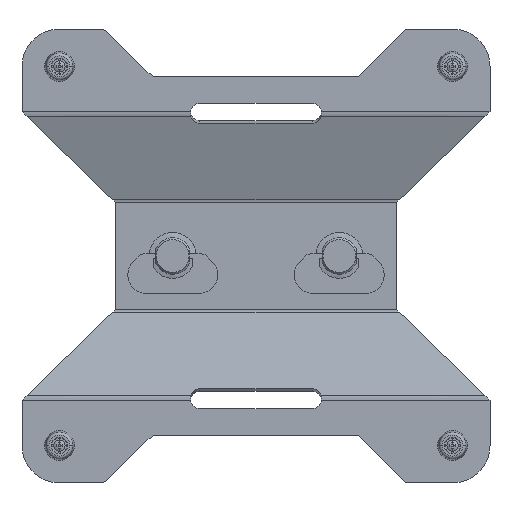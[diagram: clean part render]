
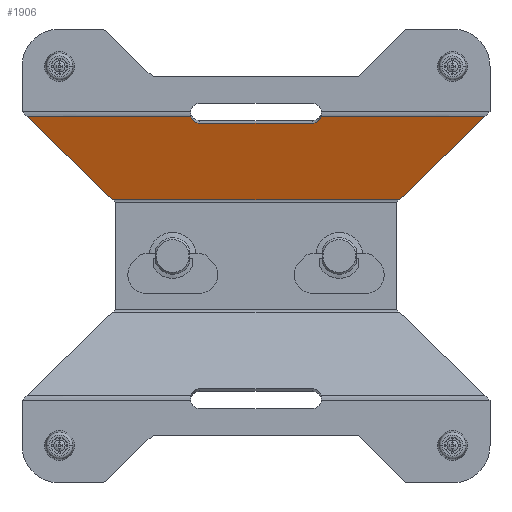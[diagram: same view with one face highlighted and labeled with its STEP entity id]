
A CAD part, front view. The second image highlights one B-rep face of the part: STEP entity #1906.
In plain terms, the highlighted planar face has unit normal (0, -0.94, -0.342).
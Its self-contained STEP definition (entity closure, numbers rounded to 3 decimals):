
#181=DIRECTION('',(-1.,0.,0.));
#182=VECTOR('',#181,152.824);
#183=CARTESIAN_POINT('',(76.412,-0.241,29.957));
#184=LINE('',#183,#182);
#321=CARTESIAN_POINT('',(-30.,-16.853,75.598));
#322=DIRECTION('',(0.,0.94,0.342));
#323=DIRECTION('',(0.,0.342,-0.94));
#324=AXIS2_PLACEMENT_3D('',#321,#322,#323);
#326=DIRECTION('',(1.,0.,0.));
#327=VECTOR('',#326,60.);
#328=CARTESIAN_POINT('',(-30.,-15.143,70.9));
#329=LINE('',#328,#327);
#330=CARTESIAN_POINT('',(30.,-16.853,75.598));
#331=DIRECTION('',(0.,0.94,0.342));
#332=DIRECTION('',(0.961,0.095,-0.261));
#333=AXIS2_PLACEMENT_3D('',#330,#331,#332);
#335=DIRECTION('',(0.696,-0.245,0.675));
#336=VECTOR('',#335,65.728);
#337=CARTESIAN_POINT('',(76.412,-0.241,29.957));
#338=LINE('',#337,#336);
#339=DIRECTION('',(-0.696,-0.245,0.675));
#340=VECTOR('',#339,65.728);
#341=CARTESIAN_POINT('',(-76.412,-0.241,
29.957));
#342=LINE('',#341,#340);
#361=DIRECTION('',(1.,0.,0.));
#362=VECTOR('',#361,87.373);
#363=CARTESIAN_POINT('',(-122.176,-16.377,74.291));
#364=LINE('',#363,#362);
#393=DIRECTION('',(1.,0.,0.));
#394=VECTOR('',#393,87.373);
#395=CARTESIAN_POINT('',(34.803,-16.377,74.291));
#396=LINE('',#395,#394);
#1331=CARTESIAN_POINT('',(76.412,-0.241,
29.957));
#1332=CARTESIAN_POINT('',(122.176,-16.377,74.291));
#1333=VERTEX_POINT('',#1331);
#1334=VERTEX_POINT('',#1332);
#1335=CARTESIAN_POINT('',(-76.412,-0.241,
29.957));
#1336=CARTESIAN_POINT('',(-122.176,-16.377,
74.291));
#1337=VERTEX_POINT('',#1335);
#1338=VERTEX_POINT('',#1336);
#1483=CARTESIAN_POINT('',(-30.,-15.143,70.9));
#1484=CARTESIAN_POINT('',(-34.803,-16.377,
74.291));
#1485=VERTEX_POINT('',#1483);
#1486=VERTEX_POINT('',#1484);
#1487=CARTESIAN_POINT('',(30.,-15.143,70.9));
#1488=VERTEX_POINT('',#1487);
#1489=CARTESIAN_POINT('',(34.803,-16.377,74.291));
#1490=VERTEX_POINT('',#1489);
#1885=CARTESIAN_POINT('',(-125.,0.241,28.632));
#1886=DIRECTION('',(0.,0.94,0.342));
#1887=DIRECTION('',(-1.,0.,0.));
#1888=AXIS2_PLACEMENT_3D('',#1885,#1886,#1887);
#1889=PLANE('',#1888);
#1890=ORIENTED_EDGE('',*,*,#1875,.F.);
#1892=ORIENTED_EDGE('',*,*,#1891,.T.);
#1894=ORIENTED_EDGE('',*,*,#1893,.F.);
#1896=ORIENTED_EDGE('',*,*,#1895,.T.);
#1898=ORIENTED_EDGE('',*,*,#1897,.F.);
#1899=ORIENTED_EDGE('',*,*,#1634,.T.);
#1901=ORIENTED_EDGE('',*,*,#1900,.T.);
#1903=ORIENTED_EDGE('',*,*,#1902,.T.);
#1904=EDGE_LOOP('',(#1890,#1892,#1894,#1896,#1898,#1899,#1901,#1903));
#1905=FACE_OUTER_BOUND('',#1904,.F.);
#325=CIRCLE('',#324,5.);
#334=CIRCLE('',#333,5.);
#1634=EDGE_CURVE('',#1333,#1337,#184,.T.);
#1875=EDGE_CURVE('',#1485,#1486,#325,.T.);
#1891=EDGE_CURVE('',#1485,#1488,#329,.T.);
#1893=EDGE_CURVE('',#1490,#1488,#334,.T.);
#1895=EDGE_CURVE('',#1490,#1334,#396,.T.);
#1897=EDGE_CURVE('',#1333,#1334,#338,.T.);
#1900=EDGE_CURVE('',#1337,#1338,#342,.T.);
#1902=EDGE_CURVE('',#1338,#1486,#364,.T.);
#1906=ADVANCED_FACE('',(#1905),#1889,.F.);
